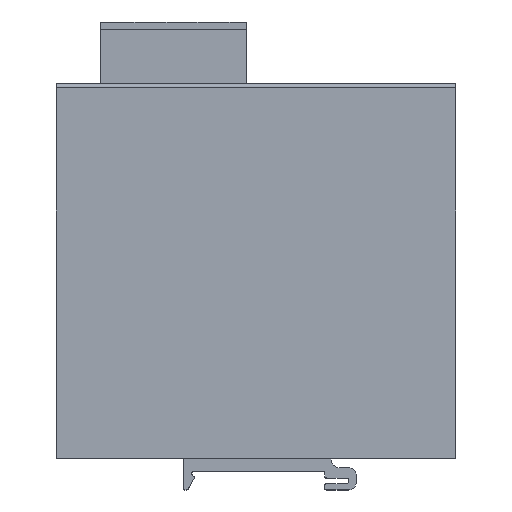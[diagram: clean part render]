
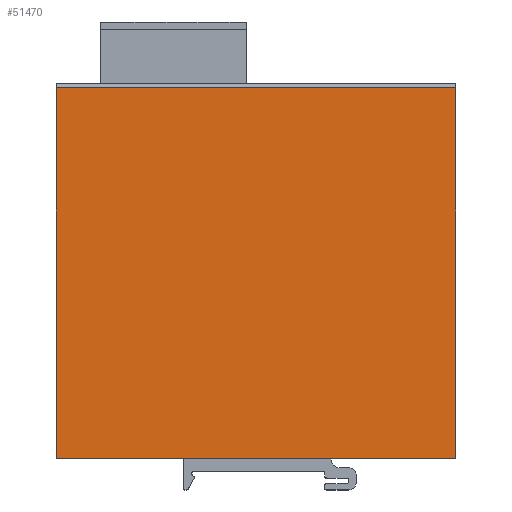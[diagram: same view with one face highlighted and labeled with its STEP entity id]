
A CAD part, top view. The second image highlights one B-rep face of the part: STEP entity #51470.
In plain terms, the highlighted planar face has unit normal (0, 0, 1).
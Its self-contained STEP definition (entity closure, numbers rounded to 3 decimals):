
#53=DIRECTION('',(-1.,0.,0.));
#54=VECTOR('',#53,105.);
#55=CARTESIAN_POINT('',(52.5,-36.994,26.));
#56=LINE('',#55,#54);
#57=DIRECTION('',(0.,1.,0.));
#58=VECTOR('',#57,97.494);
#59=CARTESIAN_POINT('',(-52.5,-36.994,26.));
#60=LINE('',#59,#58);
#61=DIRECTION('',(0.,-1.,0.));
#62=VECTOR('',#61,97.494);
#63=CARTESIAN_POINT('',(52.5,60.5,26.));
#64=LINE('',#63,#62);
#69=DIRECTION('',(-1.,0.,0.));
#70=VECTOR('',#69,105.);
#71=CARTESIAN_POINT('',(52.5,60.5,26.));
#72=LINE('',#71,#70);
#38619=CARTESIAN_POINT('',(-52.5,-36.994,26.));
#38620=VERTEX_POINT('',#38619);
#38621=CARTESIAN_POINT('',(52.5,-36.994,26.));
#38622=VERTEX_POINT('',#38621);
#38627=CARTESIAN_POINT('',(-52.5,60.5,26.));
#38628=VERTEX_POINT('',#38627);
#38631=CARTESIAN_POINT('',(52.5,60.5,26.));
#38632=VERTEX_POINT('',#38631);
#51458=CARTESIAN_POINT('',(0.,0.,26.));
#51459=DIRECTION('',(0.,0.,1.));
#51460=DIRECTION('',(1.,0.,0.));
#51461=AXIS2_PLACEMENT_3D('',#51458,#51459,#51460);
#51462=PLANE('',#51461);
#51463=ORIENTED_EDGE('',*,*,#51402,.T.);
#51464=ORIENTED_EDGE('',*,*,#51422,.T.);
#51466=ORIENTED_EDGE('',*,*,#51465,.F.);
#51467=ORIENTED_EDGE('',*,*,#51447,.T.);
#51468=EDGE_LOOP('',(#51463,#51464,#51466,#51467));
#51469=FACE_OUTER_BOUND('',#51468,.F.);
#51402=EDGE_CURVE('',#38622,#38620,#56,.T.);
#51422=EDGE_CURVE('',#38620,#38628,#60,.T.);
#51447=EDGE_CURVE('',#38632,#38622,#64,.T.);
#51465=EDGE_CURVE('',#38632,#38628,#72,.T.);
#51470=ADVANCED_FACE('',(#51469),#51462,.T.);
